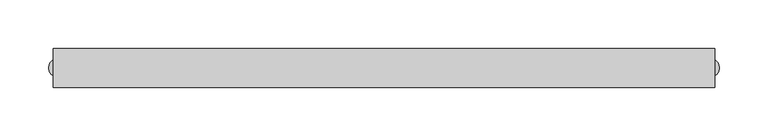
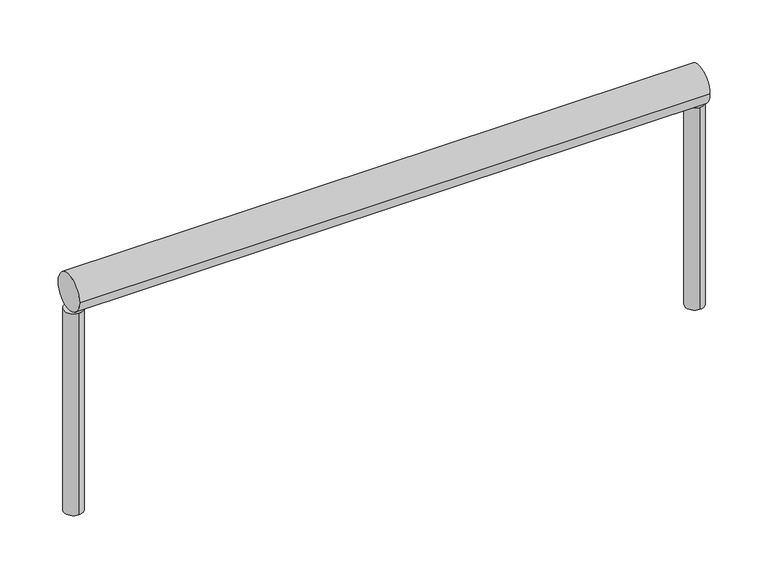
"""IFC4 building model written with IfcOpenShell, lengths in millimetres: railing geometry, Geländer-1."""

from ifc_helpers import new_model, si_unit, point, frame, frame_2d, origin, place, context, project, spatial, circle_curve, trimmed, segment, composite_curve, outline, extrude, source, transform, mapped, element, save


def railing_564460aa(model_context):
    return source(origin(), model_context, "Body", "SweptSolid", [
        extrude(outline(composite_curve([segment(trimmed(circle_curve(frame_2d((10744.9741559, 1750.0)), 20.0), [point((10724.9741559, 1750.0))], [point((10764.9741559, 1750.0))], False, "CARTESIAN"), True, "CONTINUOUS"), segment(trimmed(circle_curve(frame_2d((10744.9741559, 1750.0)), 20.0), [point((10764.9741559, 1750.0))], [point((10724.9741559, 1750.0))], False, "CARTESIAN"), True, "CONTINUOUS")], self_intersect=False)), frame((763.205639, 0.0, 0.0), z_axis=(1.0, 0.0, 0.0), x_axis=(0.0, 1.0, 0.0)), (0.0, 0.0, 1.0), 680.0),
        extrude(outline(composite_curve([segment(trimmed(circle_curve(frame_2d((768.205639, 10744.9741559)), 10.0), [point((768.205639, 10734.9741559))], [point((768.205639, 10754.9741559))], False, "CARTESIAN"), True, "CONTINUOUS"), segment(trimmed(circle_curve(frame_2d((768.205639, 10744.9741559)), 10.0), [point((768.205639, 10754.9741559))], [point((768.205639, 10734.9741559))], False, "CARTESIAN"), True, "CONTINUOUS")], self_intersect=False)), frame((0.0, 0.0, 1500.0), z_axis=(0.0, 0.0, 1.0), x_axis=(1.0, 0.0, 0.0)), (0.0, 0.0, 1.0), 230.0),
        extrude(outline(composite_curve([segment(trimmed(circle_curve(frame_2d((1438.205639, 10744.9741559)), 10.0), [point((1438.205639, 10734.9741559))], [point((1438.205639, 10754.9741559))], False, "CARTESIAN"), True, "CONTINUOUS"), segment(trimmed(circle_curve(frame_2d((1438.205639, 10744.9741559)), 10.0), [point((1438.205639, 10754.9741559))], [point((1438.205639, 10734.9741559))], False, "CARTESIAN"), True, "CONTINUOUS")], self_intersect=False)), frame((0.0, 0.0, 1500.0), z_axis=(0.0, 0.0, 1.0), x_axis=(1.0, 0.0, 0.0)), (0.0, 0.0, 1.0), 230.0),
    ])


if __name__ == "__main__":
    model = new_model("IFC4")
    model_context = context("Model", 3, world=origin())
    ifc_project = project(units=[si_unit("LENGTHUNIT", "METRE", prefix="MILLI")], contexts=[model_context])
    site = spatial("IfcSite", under=ifc_project)
    building = spatial("IfcBuilding", under=site)
    placement = place(None, origin())
    railing_shape = railing_564460aa(model_context)
    element("IfcRailing", 1, ObjectType="Geländer-1", at=placement, inside=building, context=model_context, shape_type="MappedRepresentation", body=[
        mapped(railing_shape, transform((0.0, 0.0, 0.0), x_axis=(1.0, 0.0, 0.0), y_axis=(0.0, 1.0, 0.0), z_axis=(0.0, 0.0, 1.0))),
    ])
    save(model, "model.ifc")
